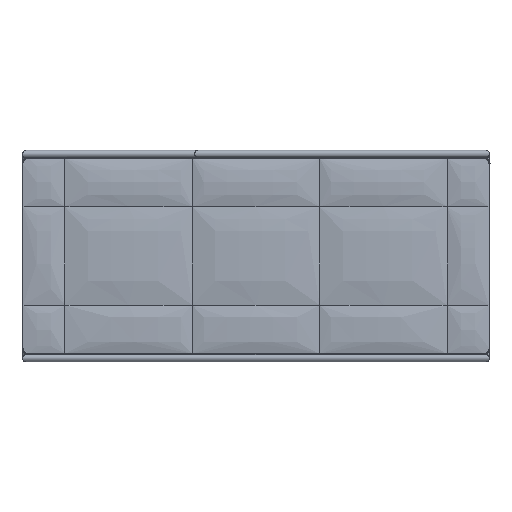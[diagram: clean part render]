
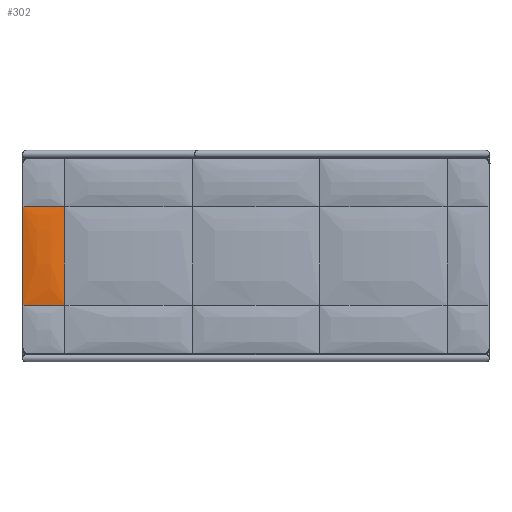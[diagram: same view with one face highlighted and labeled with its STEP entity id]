
A CAD part, top view. The second image highlights one B-rep face of the part: STEP entity #302.
In plain terms, the highlighted free-form (B-spline) face has degree [3, 3] with [6, 12] control points.
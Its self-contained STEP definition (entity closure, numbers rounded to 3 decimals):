
#62=B_SPLINE_CURVE_WITH_KNOTS('',3,(#5520,#5521,#5522,#5523,#5524,#5525),
 .UNSPECIFIED.,.F.,.F.,(4,1,1,4),(-173.325,-115.55,-57.775,
-2.006),.UNSPECIFIED.);
#70=B_SPLINE_CURVE_WITH_KNOTS('',3,(#5611,#5612,#5613,#5614,#5615,#5616),
 .UNSPECIFIED.,.F.,.F.,(4,1,1,4),(-173.325,-115.55,-57.775,
-2.006),.UNSPECIFIED.);
#76=B_SPLINE_CURVE_WITH_KNOTS('',3,(#5672,#5673,#5674,#5675,#5676,#5677,
#5678,#5679,#5680,#5681,#5682,#5683),.UNSPECIFIED.,.F.,.F.,(4,1,1,1,1,1,
1,1,1,4),(-400.037,-366.692,-333.347,-300.002,
-233.346,-166.691,-100.035,-66.69,
-33.345,0.),.UNSPECIFIED.);
#77=B_SPLINE_CURVE_WITH_KNOTS('',3,(#5684,#5685,#5686,#5687,#5688,#5689,
#5690,#5691,#5692,#5693),.UNSPECIFIED.,.F.,.F.,(4,2,2,2,4),(-399.997,
-300.019,-199.982,-100.024,0.),.UNSPECIFIED.);
#238=B_SPLINE_SURFACE_WITH_KNOTS('',3,3,((#4673,#4674,#4675,#4676,#4677,
#4678,#4679,#4680,#4681,#4682,#4683,#4684),(#4685,#4686,#4687,#4688,#4689,
#4690,#4691,#4692,#4693,#4694,#4695,#4696),(#4697,#4698,#4699,#4700,#4701,
#4702,#4703,#4704,#4705,#4706,#4707,#4708),(#4709,#4710,#4711,#4712,#4713,
#4714,#4715,#4716,#4717,#4718,#4719,#4720),(#4721,#4722,#4723,#4724,#4725,
#4726,#4727,#4728,#4729,#4730,#4731,#4732),(#4733,#4734,#4735,#4736,#4737,
#4738,#4739,#4740,#4741,#4742,#4743,#4744)),.UNSPECIFIED.,.F.,.F.,.F.,(4,
1,1,4),(4,1,1,1,1,1,1,1,1,4),(0.,57.793,115.586,173.379),
(0.,33.345,66.69,100.035,166.691,
233.346,300.002,333.347,366.692,400.037),
 .UNSPECIFIED.);
#302=ADVANCED_FACE('',(#435),#238,.T.);
#435=FACE_OUTER_BOUND('',#568,.T.);
#568=EDGE_LOOP('',(#764,#765,#766,#767));
#764=ORIENTED_EDGE('',*,*,#1269,.F.);
#765=ORIENTED_EDGE('',*,*,#1275,.F.);
#766=ORIENTED_EDGE('',*,*,#1261,.T.);
#767=ORIENTED_EDGE('',*,*,#1276,.F.);
#1261=EDGE_CURVE('',#1660,#1663,#62,.T.);
#1269=EDGE_CURVE('',#1666,#1669,#70,.T.);
#1275=EDGE_CURVE('',#1660,#1666,#76,.T.);
#1276=EDGE_CURVE('',#1669,#1663,#77,.T.);
#1660=VERTEX_POINT('',#5355);
#1663=VERTEX_POINT('',#5358);
#1666=VERTEX_POINT('',#5361);
#1669=VERTEX_POINT('',#5364);
#4673=CARTESIAN_POINT('',(2.047,230.,353.1));
#4674=CARTESIAN_POINT('',(2.048,241.113,353.1));
#4675=CARTESIAN_POINT('',(2.048,263.339,353.1));
#4676=CARTESIAN_POINT('',(2.049,296.679,353.1));
#4677=CARTESIAN_POINT('',(2.05,341.119,353.101));
#4678=CARTESIAN_POINT('',(2.051,396.674,353.101));
#4679=CARTESIAN_POINT('',(2.051,463.326,353.101));
#4680=CARTESIAN_POINT('',(2.05,518.881,353.101));
#4681=CARTESIAN_POINT('',(2.049,563.321,353.1));
#4682=CARTESIAN_POINT('',(2.048,596.661,353.1));
#4683=CARTESIAN_POINT('',(2.048,618.887,353.1));
#4684=CARTESIAN_POINT('',(2.047,630.,353.1));
#4685=CARTESIAN_POINT('',(21.213,230.,354.21));
#4686=CARTESIAN_POINT('',(21.169,241.113,354.654));
#4687=CARTESIAN_POINT('',(21.087,263.337,355.468));
#4688=CARTESIAN_POINT('',(20.988,296.677,356.467));
#4689=CARTESIAN_POINT('',(20.884,341.12,357.503));
#4690=CARTESIAN_POINT('',(20.811,396.671,358.242));
#4691=CARTESIAN_POINT('',(20.811,463.324,358.242));
#4692=CARTESIAN_POINT('',(20.884,518.882,357.502));
#4693=CARTESIAN_POINT('',(20.988,563.32,356.467));
#4694=CARTESIAN_POINT('',(21.087,596.66,355.468));
#4695=CARTESIAN_POINT('',(21.169,618.887,354.654));
#4696=CARTESIAN_POINT('',(21.213,630.,354.21));
#4697=CARTESIAN_POINT('',(59.58,230.,355.692));
#4698=CARTESIAN_POINT('',(59.527,241.111,356.774));
#4699=CARTESIAN_POINT('',(59.429,263.334,358.757));
#4700=CARTESIAN_POINT('',(59.31,296.674,361.191));
#4701=CARTESIAN_POINT('',(59.186,341.123,363.714));
#4702=CARTESIAN_POINT('',(59.098,396.664,365.515));
#4703=CARTESIAN_POINT('',(59.098,463.321,365.515));
#4704=CARTESIAN_POINT('',(59.186,518.883,363.714));
#4705=CARTESIAN_POINT('',(59.31,563.319,361.191));
#4706=CARTESIAN_POINT('',(59.429,596.66,358.757));
#4707=CARTESIAN_POINT('',(59.527,618.887,356.774));
#4708=CARTESIAN_POINT('',(59.58,630.,355.692));
#4709=CARTESIAN_POINT('',(117.239,230.,355.693));
#4710=CARTESIAN_POINT('',(117.251,241.109,356.899));
#4711=CARTESIAN_POINT('',(117.273,263.328,359.112));
#4712=CARTESIAN_POINT('',(117.299,296.668,361.827));
#4713=CARTESIAN_POINT('',(117.327,341.127,364.642));
#4714=CARTESIAN_POINT('',(117.347,396.653,366.651));
#4715=CARTESIAN_POINT('',(117.347,463.315,366.652));
#4716=CARTESIAN_POINT('',(117.327,518.885,364.641));
#4717=CARTESIAN_POINT('',(117.299,563.317,361.827));
#4718=CARTESIAN_POINT('',(117.273,596.659,359.112));
#4719=CARTESIAN_POINT('',(117.251,618.887,356.899));
#4720=CARTESIAN_POINT('',(117.239,630.,355.693));
#4721=CARTESIAN_POINT('',(155.616,230.,354.21));
#4722=CARTESIAN_POINT('',(155.643,241.108,354.943));
#4723=CARTESIAN_POINT('',(155.694,263.324,356.288));
#4724=CARTESIAN_POINT('',(155.756,296.665,357.938));
#4725=CARTESIAN_POINT('',(155.82,341.13,359.649));
#4726=CARTESIAN_POINT('',(155.866,396.646,360.87));
#4727=CARTESIAN_POINT('',(155.866,463.312,360.871));
#4728=CARTESIAN_POINT('',(155.82,518.886,359.649));
#4729=CARTESIAN_POINT('',(155.756,563.315,357.938));
#4730=CARTESIAN_POINT('',(155.694,596.658,356.288));
#4731=CARTESIAN_POINT('',(155.643,618.887,354.943));
#4732=CARTESIAN_POINT('',(155.616,630.,354.21));
#4733=CARTESIAN_POINT('',(174.785,230.,353.1));
#4734=CARTESIAN_POINT('',(174.785,241.107,353.47));
#4735=CARTESIAN_POINT('',(174.785,263.322,354.149));
#4736=CARTESIAN_POINT('',(174.785,296.663,354.983));
#4737=CARTESIAN_POINT('',(174.785,341.131,355.847));
#4738=CARTESIAN_POINT('',(174.785,396.643,356.463));
#4739=CARTESIAN_POINT('',(174.785,463.31,356.464));
#4740=CARTESIAN_POINT('',(174.785,518.886,355.847));
#4741=CARTESIAN_POINT('',(174.785,563.314,354.983));
#4742=CARTESIAN_POINT('',(174.785,596.658,354.15));
#4743=CARTESIAN_POINT('',(174.785,618.887,353.47));
#4744=CARTESIAN_POINT('',(174.785,630.,353.1));
#5355=CARTESIAN_POINT('',(174.785,630.,353.1));
#5358=CARTESIAN_POINT('',(4.044,630.,353.214));
#5361=CARTESIAN_POINT('',(174.785,230.,353.1));
#5364=CARTESIAN_POINT('',(4.044,230.,353.214));
#5520=CARTESIAN_POINT('',(174.785,630.,353.1));
#5521=CARTESIAN_POINT('',(155.616,630.,354.21));
#5522=CARTESIAN_POINT('',(117.239,630.,355.693));
#5523=CARTESIAN_POINT('',(60.247,630.,355.692));
#5524=CARTESIAN_POINT('',(22.545,630.,354.261));
#5525=CARTESIAN_POINT('',(4.044,630.,353.214));
#5611=CARTESIAN_POINT('',(174.785,230.,353.1));
#5612=CARTESIAN_POINT('',(155.616,230.,354.21));
#5613=CARTESIAN_POINT('',(117.239,230.,355.693));
#5614=CARTESIAN_POINT('',(60.247,230.,355.692));
#5615=CARTESIAN_POINT('',(22.545,230.,354.261));
#5616=CARTESIAN_POINT('',(4.044,230.,353.214));
#5672=CARTESIAN_POINT('',(174.785,630.,353.1));
#5673=CARTESIAN_POINT('',(174.785,618.887,353.47));
#5674=CARTESIAN_POINT('',(174.785,596.657,354.15));
#5675=CARTESIAN_POINT('',(174.785,563.314,354.983));
#5676=CARTESIAN_POINT('',(174.785,518.886,355.847));
#5677=CARTESIAN_POINT('',(174.785,463.31,356.464));
#5678=CARTESIAN_POINT('',(174.785,396.643,356.463));
#5679=CARTESIAN_POINT('',(174.785,341.131,355.847));
#5680=CARTESIAN_POINT('',(174.785,296.663,354.983));
#5681=CARTESIAN_POINT('',(174.785,263.322,354.149));
#5682=CARTESIAN_POINT('',(174.785,241.107,353.47));
#5683=CARTESIAN_POINT('',(174.785,230.,353.1));
#5684=CARTESIAN_POINT('',(4.044,230.,353.214));
#5685=CARTESIAN_POINT('',(4.042,263.326,353.352));
#5686=CARTESIAN_POINT('',(4.027,296.653,353.456));
#5687=CARTESIAN_POINT('',(4.003,363.325,353.591));
#5688=CARTESIAN_POINT('',(3.995,396.671,353.624));
#5689=CARTESIAN_POINT('',(3.995,463.337,353.624));
#5690=CARTESIAN_POINT('',(4.003,496.656,353.591));
#5691=CARTESIAN_POINT('',(4.027,563.317,353.456));
#5692=CARTESIAN_POINT('',(4.042,596.658,353.353));
#5693=CARTESIAN_POINT('',(4.044,630.,353.214));
